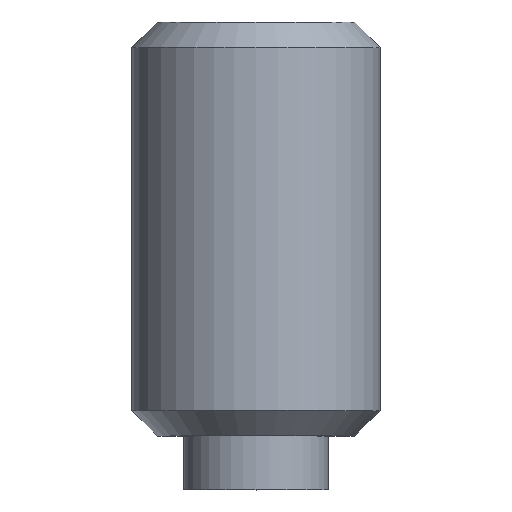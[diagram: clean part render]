
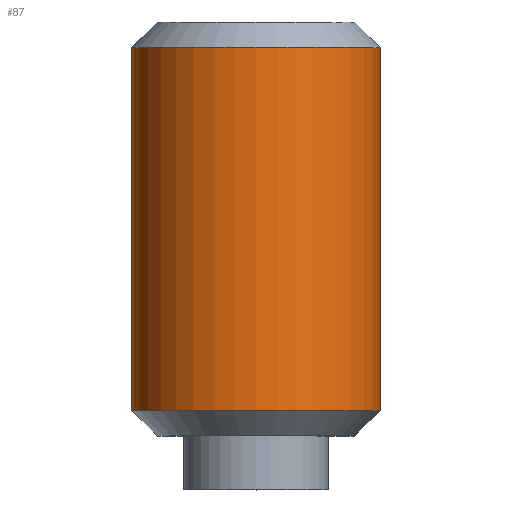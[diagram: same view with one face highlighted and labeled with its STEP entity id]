
A CAD part, top view. The second image highlights one B-rep face of the part: STEP entity #87.
In plain terms, the highlighted cylindrical face has radius 3 mm (diameter 6 mm), a full revolution.
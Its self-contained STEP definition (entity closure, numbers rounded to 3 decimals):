
#87 = ADVANCED_FACE( '', ( #118, #119 ), #120, .T. );
#118 = FACE_OUTER_BOUND( '', #152, .T. );
#119 = FACE_OUTER_BOUND( '', #153, .T. );
#120 = CYLINDRICAL_SURFACE( '', #154, 3. );
#152 = EDGE_LOOP( '', ( #238 ) );
#153 = EDGE_LOOP( '', ( #239 ) );
#154 = AXIS2_PLACEMENT_3D( '', #240, #241, #242 );
#238 = ORIENTED_EDGE( '', *, *, #270, .F. );
#239 = ORIENTED_EDGE( '', *, *, #271, .T. );
#240 = CARTESIAN_POINT( '', ( 0., 0., 0. ) );
#241 = DIRECTION( '', ( 0., 1., 0. ) );
#242 = DIRECTION( '', ( 0., 0., -1. ) );
#270 = EDGE_CURVE( '', #310, #310, #311, .T. );
#271 = EDGE_CURVE( '', #312, #312, #313, .T. );
#310 = VERTEX_POINT( '', #370 );
#311 = CIRCLE( '', #371, 3. );
#312 = VERTEX_POINT( '', #372 );
#313 = CIRCLE( '', #373, 3. );
#370 = CARTESIAN_POINT( '', ( 0., 1.913, -3. ) );
#371 = AXIS2_PLACEMENT_3D( '', #404, #405, #406 );
#372 = CARTESIAN_POINT( '', ( 0., 10.687, -3. ) );
#373 = AXIS2_PLACEMENT_3D( '', #407, #408, #409 );
#404 = CARTESIAN_POINT( '', ( 0., 1.913, 0. ) );
#405 = DIRECTION( '', ( 0., -1., 0. ) );
#406 = DIRECTION( '', ( 0., 0., -1. ) );
#407 = CARTESIAN_POINT( '', ( 0., 10.687, 0. ) );
#408 = DIRECTION( '', ( 0., -1., 0. ) );
#409 = DIRECTION( '', ( 0., 0., -1. ) );
